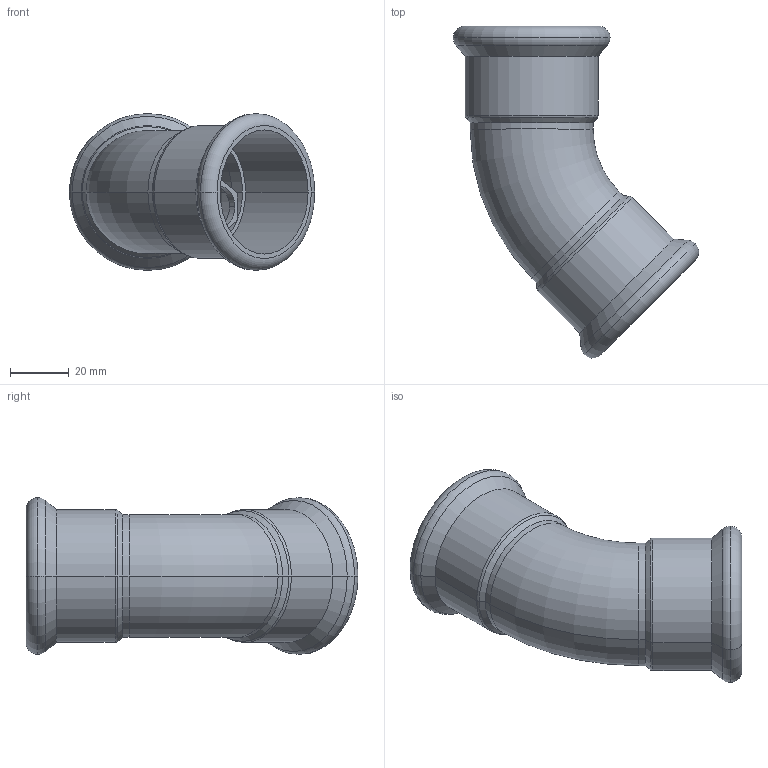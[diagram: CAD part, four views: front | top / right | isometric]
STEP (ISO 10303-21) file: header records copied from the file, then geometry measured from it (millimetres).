
FILE_DESCRIPTION(('OneSpaceDesigner STEP Export'),'2;1');
FILE_NAME('R2713 42x42.stp','2010-06-10T 8:30:52',(''),(''),'OneSpace Designer STEP processor for AP214 (Solid Model)','OneSpace Modeling 15.00A 14-Mar-2007 (C) CoCreate Software GmbH','');
FILE_SCHEMA(('AUTOMOTIVE_DESIGN { 1 0 10303 214 1 1 1 1 }'));
Length unit declared in the file: millimetre
Products named in the file (2): R2713_42x42
Assembly tree (1 placements, depth 2):
  R2713_42x42
    R2713_42x42
Bounding box: 83.84 x 113.36 x 53.55 mm (x, y, z)
Volume: 32875.5 mm3; surface area: 34671.1 mm2
Topology: 1 solids, 1 shells, 122 faces, 302 edges, 192 vertices
Faces by surface type: plane 60, cylinder 38, torus 16, cone 8
Entity records: 3209 total; most frequent: ORIENTED_EDGE 604, CARTESIAN_POINT 520, DIRECTION 478, EDGE_CURVE 302, VERTEX_POINT 192, VECTOR 178, LINE 178, AXIS2_PLACEMENT_3D 150
